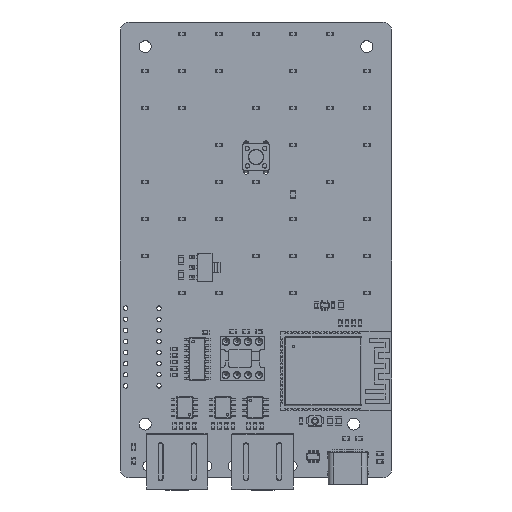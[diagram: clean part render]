
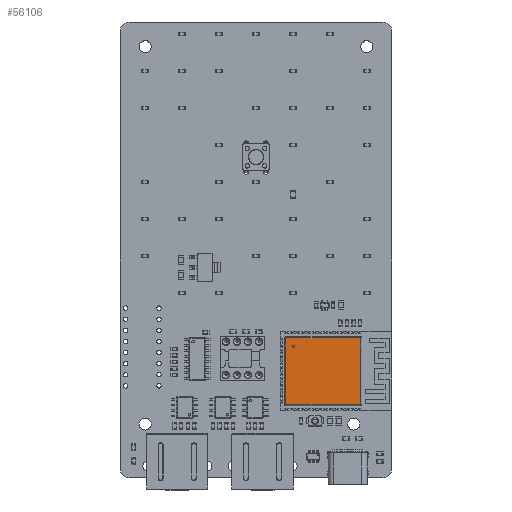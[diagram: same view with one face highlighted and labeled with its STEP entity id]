
A CAD part, top view. The second image highlights one B-rep face of the part: STEP entity #56106.
In plain terms, the highlighted planar face has unit normal (0, 0, 1).
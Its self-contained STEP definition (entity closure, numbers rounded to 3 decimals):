
#55930 = VERTEX_POINT('',#55931);
#55931 = CARTESIAN_POINT('',(-7.55,5.65,3.1));
#55938 = EDGE_CURVE('',#55930,#55939,#55941,.T.);
#55939 = VERTEX_POINT('',#55940);
#55940 = CARTESIAN_POINT('',(7.75,5.65,3.1));
#55941 = LINE('',#55942,#55943);
#55942 = CARTESIAN_POINT('',(-7.8,5.65,3.1));
#55943 = VECTOR('',#55944,1.);
#55944 = DIRECTION('',(1.,0.,0.));
#56106 = ADVANCED_FACE('',(#56107,#56132),#56143,.T.);
#56107 = FACE_BOUND('',#56108,.T.);
#56108 = EDGE_LOOP('',(#56109,#56119,#56125,#56126));
#56109 = ORIENTED_EDGE('',*,*,#56110,.F.);
#56110 = EDGE_CURVE('',#56111,#56113,#56115,.T.);
#56111 = VERTEX_POINT('',#56112);
#56112 = CARTESIAN_POINT('',(7.75,-11.45,3.1));
#56113 = VERTEX_POINT('',#56114);
#56114 = CARTESIAN_POINT('',(-7.55,-11.45,3.1));
#56115 = LINE('',#56116,#56117);
#56116 = CARTESIAN_POINT('',(8.,-11.45,3.1));
#56117 = VECTOR('',#56118,1.);
#56118 = DIRECTION('',(-1.,0.,0.));
#56119 = ORIENTED_EDGE('',*,*,#56120,.F.);
#56120 = EDGE_CURVE('',#55939,#56111,#56121,.T.);
#56121 = LINE('',#56122,#56123);
#56122 = CARTESIAN_POINT('',(7.75,5.9,3.1));
#56123 = VECTOR('',#56124,1.);
#56124 = DIRECTION('',(0.,-1.,0.));
#56125 = ORIENTED_EDGE('',*,*,#55938,.F.);
#56126 = ORIENTED_EDGE('',*,*,#56127,.F.);
#56127 = EDGE_CURVE('',#56113,#55930,#56128,.T.);
#56128 = LINE('',#56129,#56130);
#56129 = CARTESIAN_POINT('',(-7.55,-11.7,3.1));
#56130 = VECTOR('',#56131,1.);
#56131 = DIRECTION('',(0.,1.,0.));
#56132 = FACE_BOUND('',#56133,.T.);
#56133 = EDGE_LOOP('',(#56134));
#56134 = ORIENTED_EDGE('',*,*,#56135,.F.);
#56135 = EDGE_CURVE('',#56136,#56136,#56138,.T.);
#56136 = VERTEX_POINT('',#56137);
#56137 = CARTESIAN_POINT('',(-5.35,-9.6,3.1));
#56138 = CIRCLE('',#56139,0.25);
#56139 = AXIS2_PLACEMENT_3D('',#56140,#56141,#56142);
#56140 = CARTESIAN_POINT('',(-5.6,-9.6,3.1));
#56141 = DIRECTION('',(0.,0.,1.));
#56142 = DIRECTION('',(1.,0.,-0.));
#56143 = PLANE('',#56144);
#56144 = AXIS2_PLACEMENT_3D('',#56145,#56146,#56147);
#56145 = CARTESIAN_POINT('',(0.1,-2.9,3.1));
#56146 = DIRECTION('',(0.,0.,1.));
#56147 = DIRECTION('',(1.,0.,-0.));
